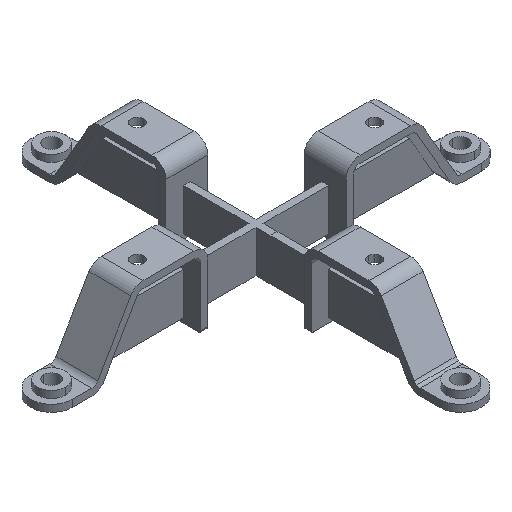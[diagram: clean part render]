
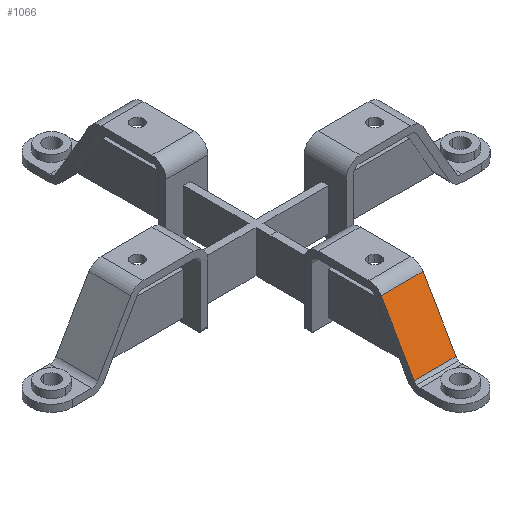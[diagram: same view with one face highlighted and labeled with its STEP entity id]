
A CAD part, isometric view. The second image highlights one B-rep face of the part: STEP entity #1066.
In plain terms, the highlighted planar face has unit normal (0, -0.866, 0.5).
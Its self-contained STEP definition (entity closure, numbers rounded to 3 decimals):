
#1053=AXIS2_PLACEMENT_3D('Plane Axis2P3D',#1050,#1051,#1052) ;
#817=CARTESIAN_POINT('Vertex',(45.,-384.104,12.5)) ;
#873=CARTESIAN_POINT('Vertex',(-45.,-384.104,12.5)) ;
#933=CARTESIAN_POINT('Vertex',(45.,-313.378,135.)) ;
#936=CARTESIAN_POINT('Line Origine',(45.,-348.741,73.75)) ;
#953=CARTESIAN_POINT('Line Origine',(0.,-384.104,12.5)) ;
#970=CARTESIAN_POINT('Line Origine',(-45.,-348.741,73.75)) ;
#974=CARTESIAN_POINT('Vertex',(-45.,-313.378,135.)) ;
#1050=CARTESIAN_POINT('Axis2P3D Location',(0.,-388.434,5.)) ;
#1055=CARTESIAN_POINT('Line Origine',(0.,-313.378,135.)) ;
#937=DIRECTION('Vector Direction',(0.,-0.5,-0.866)) ;
#954=DIRECTION('Vector Direction',(1.,0.,0.)) ;
#971=DIRECTION('Vector Direction',(0.,0.5,0.866)) ;
#1051=DIRECTION('Axis2P3D Direction',(0.,0.866,-0.5)) ;
#1052=DIRECTION('Axis2P3D XDirection',(-1.,0.,0.)) ;
#1056=DIRECTION('Vector Direction',(-1.,0.,0.)) ;
#938=VECTOR('Line Direction',#937,1.) ;
#955=VECTOR('Line Direction',#954,1.) ;
#972=VECTOR('Line Direction',#971,1.) ;
#1057=VECTOR('Line Direction',#1056,1.) ;
#1061=ORIENTED_EDGE('',*,*,#957,.T.) ;
#1062=ORIENTED_EDGE('',*,*,#940,.F.) ;
#1063=ORIENTED_EDGE('',*,*,#1059,.F.) ;
#1064=ORIENTED_EDGE('',*,*,#976,.T.) ;
#1066=ADVANCED_FACE('Hauptk\X2\00F6\X0\rper',(#1065),#1054,.F.) ;
#940=EDGE_CURVE('',#934,#818,#939,.T.) ;
#957=EDGE_CURVE('',#874,#818,#956,.T.) ;
#976=EDGE_CURVE('',#975,#874,#973,.F.) ;
#1059=EDGE_CURVE('',#975,#934,#1058,.F.) ;
#1060=EDGE_LOOP('',(#1061,#1062,#1063,#1064)) ;
#1065=FACE_OUTER_BOUND('',#1060,.T.) ;
#939=LINE('Line',#936,#938) ;
#956=LINE('Line',#953,#955) ;
#973=LINE('Line',#970,#972) ;
#1058=LINE('Line',#1055,#1057) ;
#1054=PLANE('',#1053) ;
#818=VERTEX_POINT('',#817) ;
#874=VERTEX_POINT('',#873) ;
#934=VERTEX_POINT('',#933) ;
#975=VERTEX_POINT('',#974) ;
